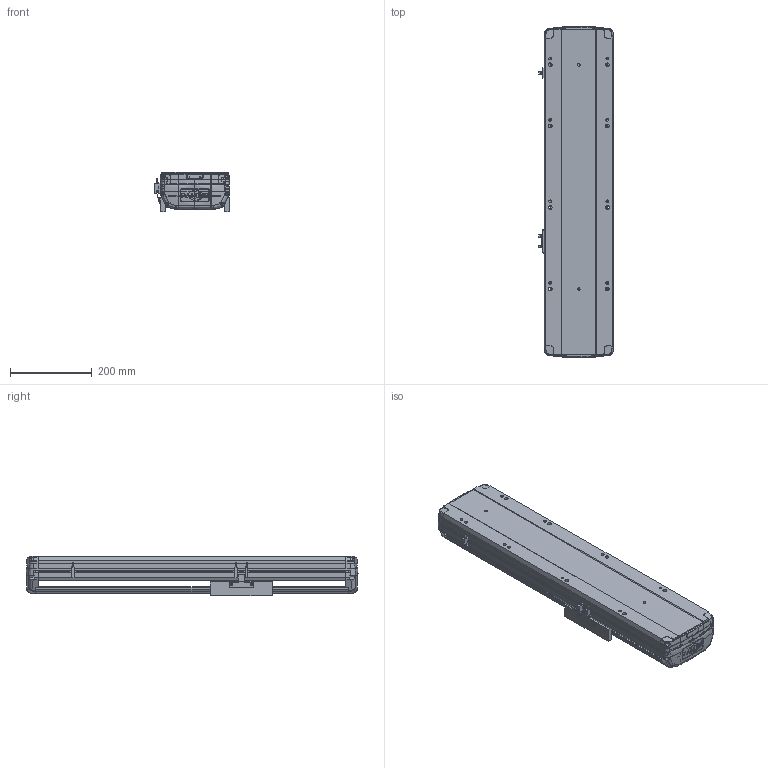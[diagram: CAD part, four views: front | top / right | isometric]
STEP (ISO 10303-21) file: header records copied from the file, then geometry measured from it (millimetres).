
FILE_DESCRIPTION (( 'STEP AP203' ), '1' );
FILE_NAME ('8.STEP', '2020-11-20T11:17:57', ( '' ), ( '' ), 'SwSTEP 2.0', 'SolidWorks 2016', '' );
FILE_SCHEMA (( 'CONFIG_CONTROL_DESIGN' ));
Length unit declared in the file: millimetre
Products named in the file (5): BTH17-M-01; BTH17-M-HZ_賑釱; 8; BTH17-M-菁釱; BTH17-M-04
Assembly tree (7 placements, depth 2):
  8
    BTH17-M-菁釱
    BTH17-M-01  x2
    BTH17-M-04  x3
    BTH17-M-HZ_賑釱
Bounding box: 183.7 x 814.07 x 97 mm (x, y, z)
Volume: 5466551.1 mm3; surface area: 968979.8 mm2
Topology: 11 solids, 11 shells, 1729 faces, 4760 edges, 3059 vertices
Faces by surface type: plane 818, cylinder 407, bspline 366, cone 96, torus 42
Entity records: 44021 total; most frequent: CARTESIAN_POINT 18468, ORIENTED_EDGE 5704, DIRECTION 4496, EDGE_CURVE 2852, VERTEX_POINT 1847, AXIS2_PLACEMENT_3D 1503, VECTOR 1490, LINE 1490
